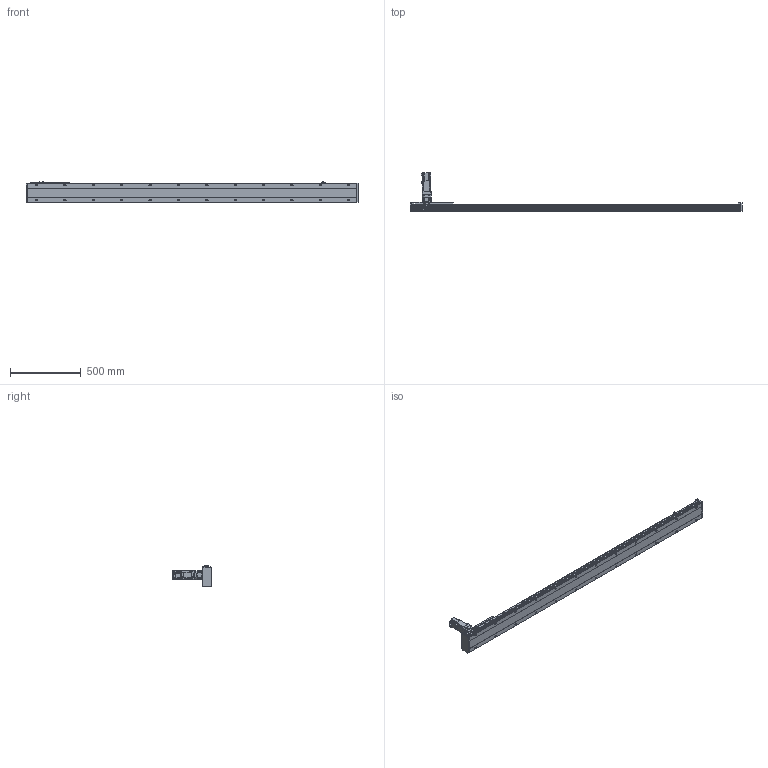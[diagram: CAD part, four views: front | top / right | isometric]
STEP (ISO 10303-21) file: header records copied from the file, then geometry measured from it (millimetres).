
FILE_DESCRIPTION(/* description */ ('STEP AP203'),/* implementation_level */ '2;1');
FILE_NAME(/* name */ 'SHS14A-L10-S2000-BC-T40-C1-N(0)',/* time_stamp */ '2023-03-27T08:49:40+02:00',/* author */ ('License CC BY-ND 4.0'),/* organization */ ('CADENAS'),/* preprocessor_version */ 'ST-DEVELOPER v19.3',/* originating_system */ 'PARTsolutions',/* authorisation */ ' ');
FILE_SCHEMA (('CONFIG_CONTROL_DESIGN','INTEGRATED_CNC_SCHEMA','AP242_MANAGED_MODEL_BASED_3D_ENGINEERING_MIM_LF { 1 0 10303 442 3 1 4 }'));
Length unit declared in the file: millimetre
Products named in the file (7): SHS14A-L10-S2000-BC-T40-C1-N(0); PSC140-sensor; T40-p1; SHS14AT_body3; SHS14A-2000_slider; SHS14A_body2; SHS14A-S2000-BC-T40-C1(0)_body
Assembly tree (13 placements, depth 2):
  SHS14A-L10-S2000-BC-T40-C1-N(0)
    PSC140-sensor  x3
    T40-p1
    SHS14AT_body3
    SHS14A-2000_slider
    SHS14A_body2  x6
    SHS14A-S2000-BC-T40-C1(0)_body
Bounding box: 2340 x 272.7 x 150.9 mm (x, y, z)
Volume: 9972149.3 mm3; surface area: 1562974.7 mm2
Topology: 13 solids, 13 shells, 2092 faces, 5343 edges, 3494 vertices
Faces by surface type: plane 1467, cylinder 539, cone 76, torus 10
Full cylindrical faces by diameter (mm): 2.8 x3, 4.134 x24, 4.2 x7, 4.4 x24, 4.5 x24, 4.6 x3, 4.8 x24, 4.917 x32, 5 x8, 5.5 x11, 5.94 x6, 6 x2, 6.6 x24, 8 x24, 8.49 x4, 8.5 x4, 9 x4, 10.5 x24, 13.964 x1, 14 x1, 14.182 x1, 16 x1, 18.974 x1, 19.274 x1, 19.774 x1, 19.8 x1, 34.442 x1, 42 x1, 50 x5
Entity records: 33354 total; most frequent: CARTESIAN_POINT 5922, DIRECTION 5639, ORIENTED_EDGE 5202, EDGE_CURVE 2601, AXIS2_PLACEMENT_3D 1953, VERTEX_POINT 1852, LINE 1733, VECTOR 1733
